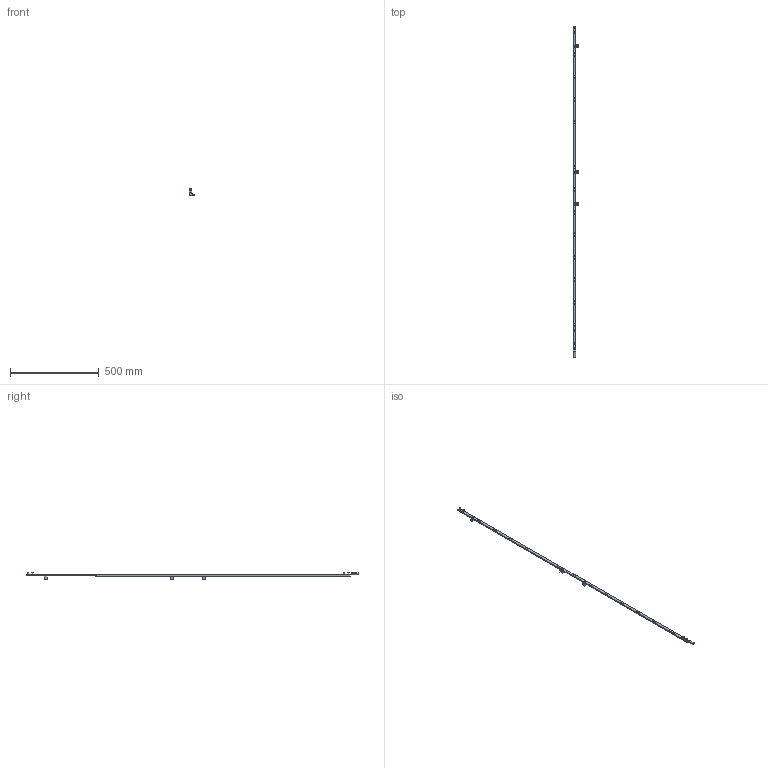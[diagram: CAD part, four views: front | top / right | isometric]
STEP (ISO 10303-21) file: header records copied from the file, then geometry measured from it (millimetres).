
FILE_DESCRIPTION (( 'STEP AP214' ), '1' );
FILE_NAME ('dg72.STEP', '2008-01-21T16:23:23', ( '' ), ( '' ), 'SwSTEP 2.0', 'SolidWorks 2007', '' );
FILE_SCHEMA (( 'AUTOMOTIVE_DESIGN' ));
Length unit declared in the file: inch
Products named in the file (6): dg72; VertGroundBar_72in; CompressionLug_2_100; stud_PEM_.304x.75_PEM FH-0420-12 X--N; VerticalGroundBar_72; MtgBlock
Assembly tree (10 placements, depth 3):
  dg72
    MtgBlock  x3
    VertGroundBar_72in
      stud_PEM_.304x.75_PEM FH-0420-12 X--N  x4
      VerticalGroundBar_72
    CompressionLug_2_100
Bounding box: 31.94 x 1871.09 x 38.1 mm (x, y, z)
Volume: 204409.8 mm3; surface area: 98262.2 mm2
Topology: 9 solids, 9 shells, 479 faces, 1345 edges, 891 vertices
Faces by surface type: plane 260, cylinder 151, cone 60, torus 8
Entity records: 6965 total; most frequent: CARTESIAN_POINT 1279, DIRECTION 1205, ORIENTED_EDGE 1112, EDGE_CURVE 556, AXIS2_PLACEMENT_3D 461, VERTEX_POINT 367, VECTOR 283, LINE 283
